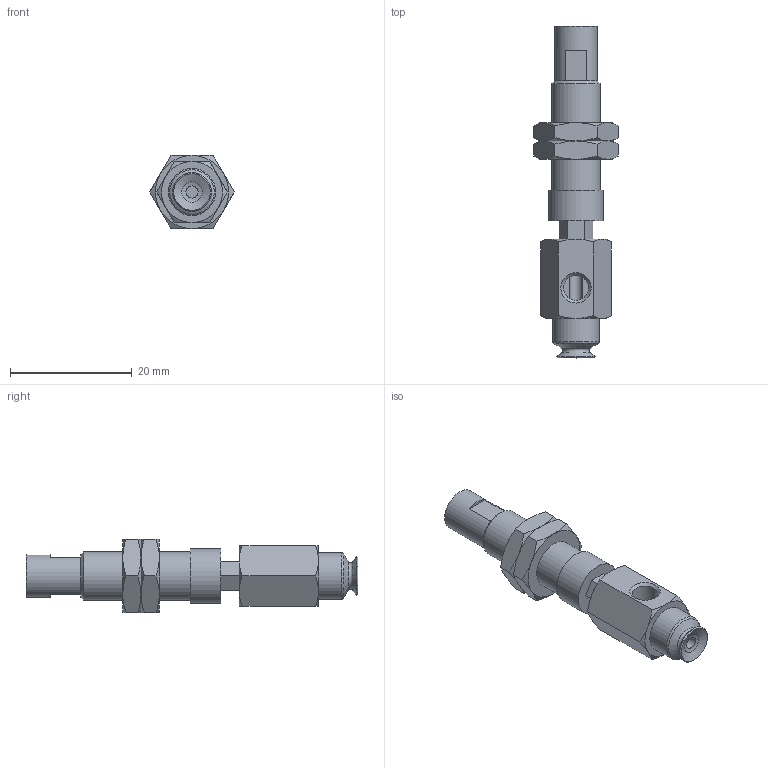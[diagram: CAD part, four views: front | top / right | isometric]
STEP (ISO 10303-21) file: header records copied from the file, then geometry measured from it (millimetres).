
FILE_DESCRIPTION(('STEP AP203'),'1');
FILE_NAME('.stp','2025-04-10T02:50:48',(' '),(' '),'Spatial InterOp 3D',' ',' ');
FILE_SCHEMA(('CONFIG_CONTROL_DESIGN'));
Length unit declared in the file: millimetre
Products named in the file (6): BNABPFYH-6A-3-※; CONNECTOR-H-6A-3; Nut-6A-3-h; NAPFTH-6A-3-FBODY; NAPFTH-6A-3-MBODY; BPFG-6A-※
Assembly tree (6 placements, depth 2):
  BNABPFYH-6A-3-※
    CONNECTOR-H-6A-3
    Nut-6A-3-h  x2
    NAPFTH-6A-3-FBODY
    NAPFTH-6A-3-MBODY
    BPFG-6A-※
Bounding box: 13.86 x 54.5 x 12 mm (x, y, z)
Volume: 3250.4 mm3; surface area: 3928.1 mm2
Topology: 6 solids, 6 shells, 138 faces, 300 edges, 182 vertices
Faces by surface type: plane 62, cone 51, cylinder 15, torus 9, bspline 1
Full cylindrical faces by diameter (mm): 2 x2, 4 x2, 4.134 x2, 5 x1, 6 x2, 7 x1, 7.188 x2, 7.7 x1, 8 x1, 9 x1
Entity records: 3447 total; most frequent: CARTESIAN_POINT 851, DIRECTION 474, ORIENTED_EDGE 416, EDGE_CURVE 208, AXIS2_PLACEMENT_3D 199, EDGE_LOOP 168, VERTEX_POINT 146, FACE_OUTER_BOUND 139
